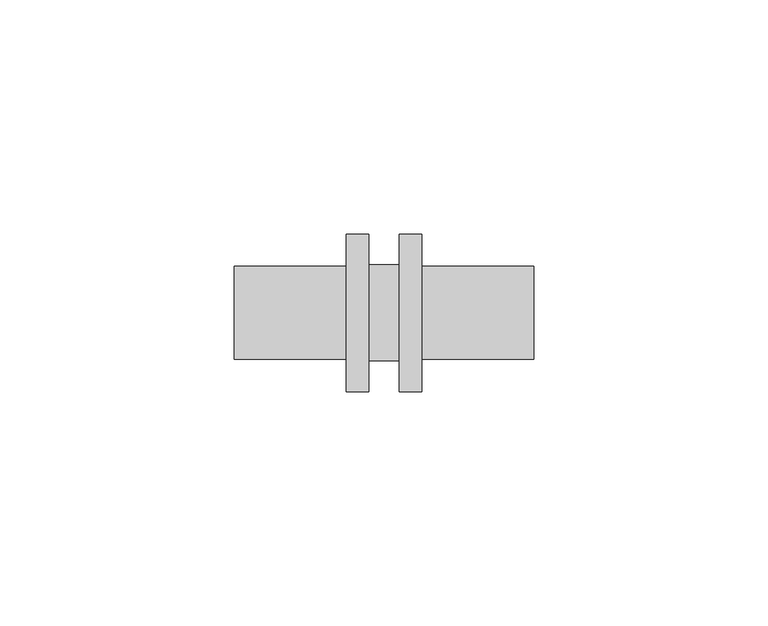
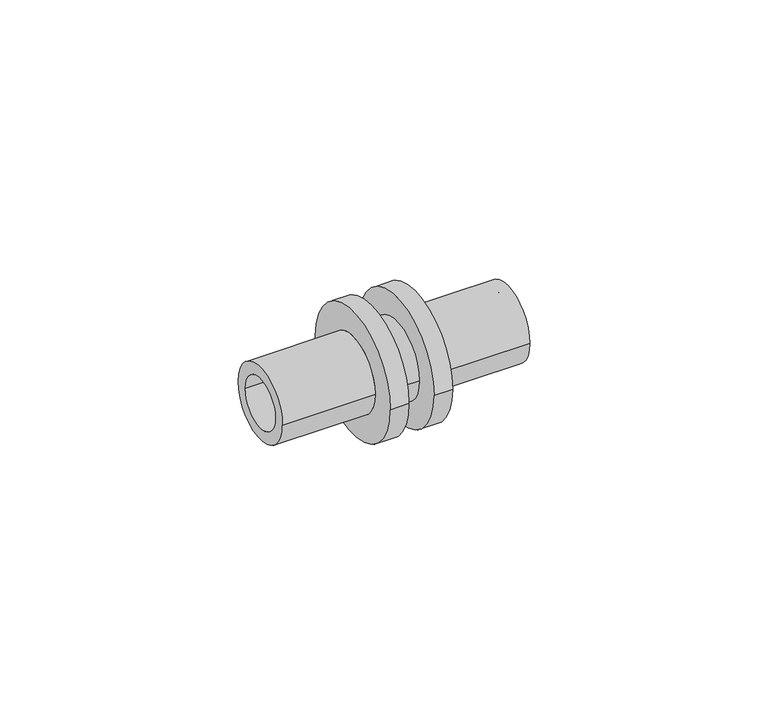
"""IFC4 building model written with IfcOpenShell, lengths in millimetres: pipe fitting geometry, RAUTITAN_Union_PX : RTI PX U DE."""

from ifc_helpers import new_model, si_unit, frame, origin, place, context, project, spatial, polyline, circle_curve, source, transform, mapped, element, save
from ifc_brep_helpers import plane_surface, cylinder_surface, revolved_surface, advanced_brep


def pipe_fitting_5ba26716(model_context):
    return source(origin(), model_context, "Body", "AdvancedBrep", [
        advanced_brep(
        [(-32.05, 6.75, 0.0), (-32.05, -6.75, 0.0), (32.05, -6.75, 0.0), (32.05, 6.75, 0.0), (-8.05, 9.95, 0.0), (-8.05, -9.95, 0.0), (-32.05, -9.95, 0.0), (-32.05, 9.95, 0.0), (-3.25, 16.85, 0.0), (-3.25, -16.85, 0.0), (-8.05, -16.85, 0.0), (-8.05, 16.85, 0.0), (3.25, 10.25, 0.0), (3.25, -10.25, 0.0), (-3.25, -10.25, 0.0), (-3.25, 10.25, 0.0), (8.05, 16.85, 0.0), (8.05, -16.85, 0.0), (3.25, -16.85, 0.0), (3.25, 16.85, 0.0), (32.05, 9.95, 0.0), (32.05, -9.95, 0.0), (8.05, -9.95, 0.0), (8.05, 9.95, 0.0)],
        [
            (0, 1, circle_curve(frame((-32.05, 0.0, 0.0), z_axis=(-1.0, 0.0, 0.0), x_axis=(0.0, -1.0, 0.0)), 6.75)),
            (1, 2),
            (2, 3, circle_curve(frame((32.05, 0.0, 0.0), z_axis=(1.0, 0.0, 0.0), x_axis=(0.0, -1.0, 0.0)), 6.75)),
            (3, 0),
            (4, 5, circle_curve(frame((-8.05, 0.0, 0.0), z_axis=(-1.0, 0.0, 0.0), x_axis=(0.0, -1.0, 0.0)), 9.95)),
            (5, 6),
            (6, 7, circle_curve(frame((-32.05, 0.0, 0.0), z_axis=(1.0, 0.0, 0.0), x_axis=(0.0, -1.0, 0.0)), 9.95)),
            (7, 4),
            (8, 9, circle_curve(frame((-3.25, 0.0, 0.0), z_axis=(-1.0, 0.0, 0.0), x_axis=(0.0, -1.0, 0.0)), 16.85)),
            (9, 10),
            (10, 11, circle_curve(frame((-8.05, 0.0, 0.0), z_axis=(1.0, 0.0, 0.0), x_axis=(0.0, -1.0, 0.0)), 16.85)),
            (11, 8),
            (12, 13, circle_curve(frame((3.25, 0.0, 0.0), z_axis=(-1.0, 0.0, 0.0), x_axis=(0.0, -1.0, 0.0)), 10.25)),
            (13, 14),
            (14, 15, circle_curve(frame((-3.25, 0.0, 0.0), z_axis=(1.0, 0.0, 0.0), x_axis=(0.0, -1.0, 0.0)), 10.25)),
            (15, 12),
            (16, 17, circle_curve(frame((8.05, 0.0, 0.0), z_axis=(-1.0, 0.0, 0.0), x_axis=(0.0, -1.0, 0.0)), 16.85)),
            (17, 18),
            (18, 19, circle_curve(frame((3.25, 0.0, 0.0), z_axis=(1.0, 0.0, 0.0), x_axis=(0.0, -1.0, 0.0)), 16.85)),
            (19, 16),
            (20, 21, circle_curve(frame((32.05, 0.0, 0.0), z_axis=(-1.0, 0.0, 0.0), x_axis=(0.0, -1.0, 0.0)), 9.95)),
            (21, 22),
            (22, 23, circle_curve(frame((8.05, 0.0, 0.0), z_axis=(1.0, 0.0, 0.0), x_axis=(0.0, -1.0, 0.0)), 9.95)),
            (23, 20),
            (1, 0, circle_curve(frame((-32.05, 0.0, 0.0), z_axis=(-1.0, 0.0, 0.0), x_axis=(0.0, 1.0, 0.0)), 6.75)),
            (3, 2, circle_curve(frame((32.05, 0.0, 0.0), z_axis=(1.0, 0.0, 0.0), x_axis=(0.0, 1.0, 0.0)), 6.75)),
            (6, 7, circle_curve(frame((-32.05, 0.0, 0.0), z_axis=(-1.0, 0.0, 0.0), x_axis=(0.0, 1.0, 0.0)), 9.95)),
            (5, 4, circle_curve(frame((-8.05, 0.0, 0.0), z_axis=(-1.0, 0.0, 0.0), x_axis=(0.0, 1.0, 0.0)), 9.95)),
            (10, 11, circle_curve(frame((-8.05, 0.0, 0.0), z_axis=(-1.0, 0.0, 0.0), x_axis=(0.0, 1.0, 0.0)), 16.85)),
            (9, 8, circle_curve(frame((-3.25, 0.0, 0.0), z_axis=(-1.0, 0.0, 0.0), x_axis=(0.0, 1.0, 0.0)), 16.85)),
            (14, 15, circle_curve(frame((-3.25, 0.0, 0.0), z_axis=(-1.0, 0.0, 0.0), x_axis=(0.0, 1.0, 0.0)), 10.25)),
            (13, 12, circle_curve(frame((3.25, 0.0, 0.0), z_axis=(-1.0, 0.0, 0.0), x_axis=(0.0, 1.0, 0.0)), 10.25)),
            (18, 19, circle_curve(frame((3.25, 0.0, 0.0), z_axis=(-1.0, 0.0, 0.0), x_axis=(0.0, 1.0, 0.0)), 16.85)),
            (17, 16, circle_curve(frame((8.05, 0.0, 0.0), z_axis=(-1.0, 0.0, 0.0), x_axis=(0.0, 1.0, 0.0)), 16.85)),
            (22, 23, circle_curve(frame((8.05, 0.0, 0.0), z_axis=(-1.0, 0.0, 0.0), x_axis=(0.0, 1.0, 0.0)), 9.95)),
            (21, 20, circle_curve(frame((32.05, 0.0, 0.0), z_axis=(-1.0, 0.0, 0.0), x_axis=(0.0, 1.0, 0.0)), 9.95)),
        ],
        [
            revolved_surface(polyline([(32.05, -6.75, 0.0), (-32.05, -6.75, 0.0)]), (0.0, 0.0, 0.0), (1.0, 0.0, 0.0)),
            cylinder_surface(frame((0.0, 0.0, 0.0), z_axis=(1.0, 0.0, 0.0), x_axis=(0.0, -1.0, 0.0)), 9.95),
            cylinder_surface(frame((0.0, 0.0, 0.0), z_axis=(1.0, 0.0, 0.0), x_axis=(0.0, -1.0, 0.0)), 16.85),
            cylinder_surface(frame((0.0, 0.0, 0.0), z_axis=(1.0, 0.0, 0.0), x_axis=(0.0, -1.0, 0.0)), 10.25),
            revolved_surface(polyline([(32.05, 6.75, 0.0), (-32.05, 6.75, 0.0)]), (0.0, 0.0, 0.0), (1.0, 0.0, 0.0)),
            plane_surface(frame((-32.05, 0.0, 0.0), z_axis=(-1.0, 0.0, 0.0), x_axis=(0.0, 1.0, 0.0))),
            cylinder_surface(frame((0.0, 0.0, 0.0), z_axis=(1.0, 0.0, 0.0), x_axis=(0.0, 1.0, 0.0)), 9.95),
            plane_surface(frame((-8.05, 0.0, 0.0), z_axis=(-1.0, 0.0, 0.0), x_axis=(0.0, 1.0, 0.0))),
            cylinder_surface(frame((0.0, 0.0, 0.0), z_axis=(1.0, 0.0, 0.0), x_axis=(0.0, 1.0, 0.0)), 16.85),
            plane_surface(frame((-3.25, 0.0, 0.0), z_axis=(1.0, 0.0, 0.0), x_axis=(0.0, 1.0, 0.0))),
            cylinder_surface(frame((0.0, 0.0, 0.0), z_axis=(1.0, 0.0, 0.0), x_axis=(0.0, 1.0, 0.0)), 10.25),
            plane_surface(frame((3.25, 0.0, 0.0), z_axis=(-1.0, 0.0, 0.0), x_axis=(0.0, 1.0, 0.0))),
            plane_surface(frame((8.05, 0.0, 0.0), z_axis=(1.0, 0.0, 0.0), x_axis=(0.0, 1.0, 0.0))),
            plane_surface(frame((32.05, 0.0, 0.0), z_axis=(1.0, 0.0, 0.0), x_axis=(0.0, 1.0, 0.0))),
        ],
        [
            (0, [[1, 2, 3, 4]]),
            (1, [[5, 6, 7, 8]]),
            (2, [[9, 10, 11, 12]]),
            (3, [[13, 14, 15, 16]]),
            (2, [[17, 18, 19, 20]]),
            (1, [[21, 22, 23, 24]]),
            (4, [[25, -4, 26, -2]]),
            (5, [[27, -7], [-25, -1]]),
            (6, [[28, -8, -27, -6]]),
            (7, [[29, -11], [-28, -5]]),
            (8, [[30, -12, -29, -10]]),
            (9, [[-30, -9], [31, -15]]),
            (10, [[32, -16, -31, -14]]),
            (11, [[33, -19], [-32, -13]]),
            (8, [[34, -20, -33, -18]]),
            (12, [[-34, -17], [35, -23]]),
            (6, [[36, -24, -35, -22]]),
            (13, [[-36, -21], [-26, -3]]),
        ],
    ),
    ])


if __name__ == "__main__":
    model = new_model("IFC4")
    model_context = context("Model", 3, world=origin())
    ifc_project = project(units=[si_unit("LENGTHUNIT", "METRE", prefix="MILLI")], contexts=[model_context])
    site = spatial("IfcSite", under=ifc_project)
    building = spatial("IfcBuilding", under=site)
    placement = place(None, origin())
    pipe_fitting_shape = pipe_fitting_5ba26716(model_context)
    element("IfcPipeFitting", 1, ObjectType="RAUTITAN_Union_PX : RTI PX U DE", at=placement, inside=building, context=model_context, shape_type="MappedRepresentation", body=[
        mapped(pipe_fitting_shape, transform((0.0, 0.0, 0.0), x_axis=(1.0, 0.0, 0.0), y_axis=(0.0, 1.0, 0.0), z_axis=(0.0, 0.0, 1.0))),
    ])
    save(model, "model.ifc")
